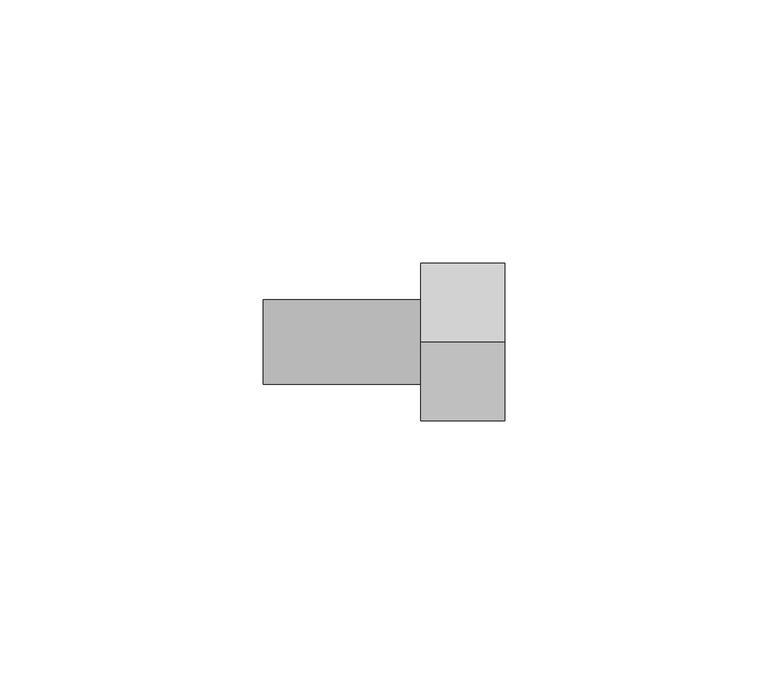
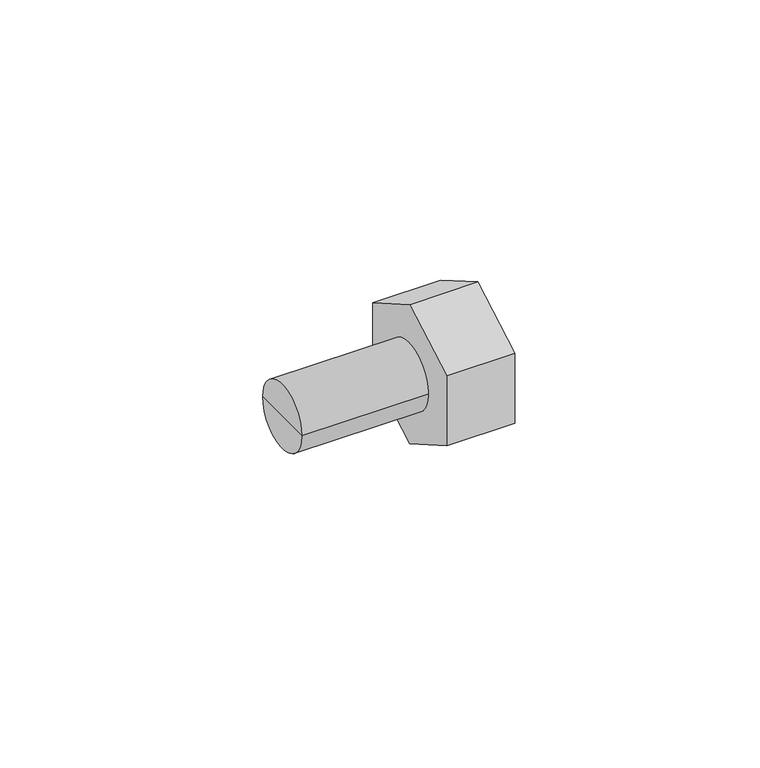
"""IFC4 building model written with IfcOpenShell, lengths in millimetres: pipe fitting geometry, KAN-therm PP półśrubunek 3_4 : KAN-therm PP półśrubunek 3_4."""

from ifc_helpers import new_model, si_unit, frame, origin, place, context, project, spatial, polyline, circle_curve, outline, extrude, source, transform, mapped, element, save
from ifc_brep_helpers import plane_surface, cylinder_surface, advanced_brep


def pipe_fitting_663bc164(model_context):
    return source(origin(), model_context, "Body", "SolidModel", [
        extrude(outline(polyline([(0.0, -17.3205081), (-15.0, -8.660254), (-15.0, 8.660254), (0.0, 17.3205081), (15.0, 8.660254), (15.0, -8.660254), (0.0, -17.3205081)])), frame((16.7, 0.0, 0.0), z_axis=(1.0, 0.0, 0.0), x_axis=(0.0, 1.0, 0.0)), (0.0, 0.0, 1.0), 16.0),
        advanced_brep(
        [(-13.3, 0.0, 0.0), (-13.3, 8.0, 0.0), (-13.3, -8.0, 0.0), (16.7, -8.0, 0.0), (16.7, 8.0, 0.0), (16.7, 0.0, 0.0)],
        [
            (0, 1),
            (1, 2, circle_curve(frame((-13.3, 0.0, 0.0), z_axis=(-1.0, 0.0, 0.0), x_axis=(0.0, 1.0, 0.0)), 8.0)),
            (2, 0),
            (2, 1, circle_curve(frame((-13.3, 0.0, 0.0), z_axis=(-1.0, 0.0, 0.0), x_axis=(0.0, 1.0, 0.0)), 8.0)),
            (3, 4, circle_curve(frame((16.7, 0.0, 0.0), z_axis=(1.0, 0.0, 0.0), x_axis=(0.0, 1.0, 0.0)), 8.0)),
            (4, 5),
            (5, 3),
            (4, 3, circle_curve(frame((16.7, 0.0, 0.0), z_axis=(1.0, 0.0, 0.0), x_axis=(0.0, 1.0, 0.0)), 8.0)),
            (1, 4),
            (3, 2),
        ],
        [
            plane_surface(frame((-13.3, 0.0, 0.0), z_axis=(-1.0, 0.0, 0.0), x_axis=(0.0, 1.0, 0.0))),
            plane_surface(frame((16.7, 0.0, 0.0), z_axis=(1.0, 0.0, 0.0), x_axis=(0.0, 1.0, 0.0))),
            cylinder_surface(frame((1982.0, 0.0, 0.0), z_axis=(-1.0, 0.0, 0.0), x_axis=(0.0, 1.0, 0.0)), 8.0),
        ],
        [
            (0, [[1, 2, 3]]),
            (0, [[-3, 4, -1]]),
            (1, [[5, 6, 7]]),
            (1, [[8, -7, -6]]),
            (2, [[-2, 9, -5, 10]]),
            (2, [[-4, -10, -8, -9]]),
        ],
    ),
    ])


if __name__ == "__main__":
    model = new_model("IFC4")
    model_context = context("Model", 3, world=origin())
    ifc_project = project(units=[si_unit("LENGTHUNIT", "METRE", prefix="MILLI")], contexts=[model_context])
    site = spatial("IfcSite", under=ifc_project)
    building = spatial("IfcBuilding", under=site)
    placement = place(None, origin())
    pipe_fitting_shape = pipe_fitting_663bc164(model_context)
    element("IfcPipeFitting", 1, ObjectType="KAN-therm PP półśrubunek 3_4 : KAN-therm PP półśrubunek 3_4", at=placement, inside=building, context=model_context, shape_type="MappedRepresentation", body=[
        mapped(pipe_fitting_shape, transform((0.0, 0.0, 0.0), x_axis=(1.0, 0.0, 0.0), y_axis=(0.0, 1.0, 0.0), z_axis=(0.0, 0.0, 1.0))),
    ])
    save(model, "model.ifc")
